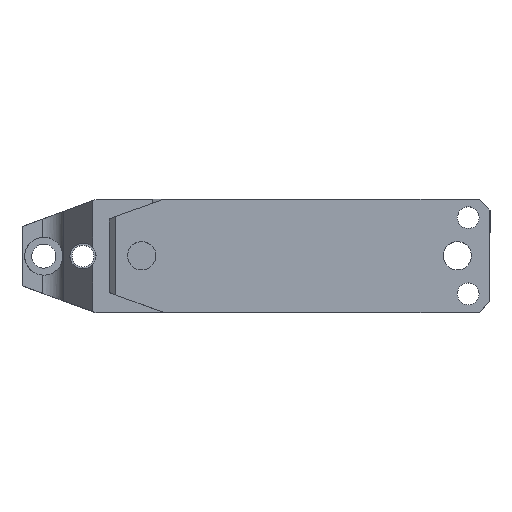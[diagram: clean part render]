
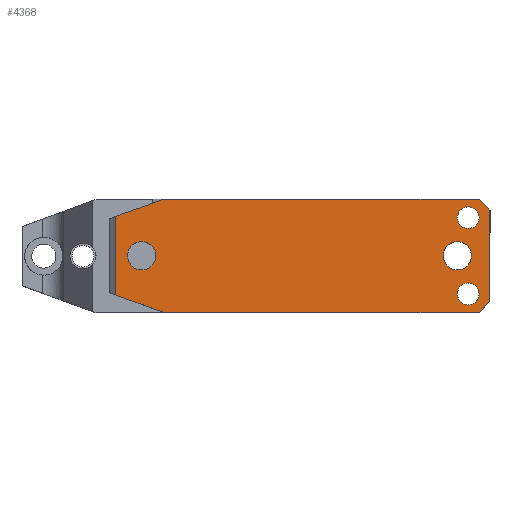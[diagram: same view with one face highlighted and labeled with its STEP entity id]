
A CAD part, top view. The second image highlights one B-rep face of the part: STEP entity #4368.
In plain terms, the highlighted planar face has unit normal (0, 0, 1).
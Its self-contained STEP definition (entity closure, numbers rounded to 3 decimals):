
#101 = CARTESIAN_POINT ( 'NONE',  ( 174., 17.5, 125. ) ) ;
#195 = DIRECTION ( 'NONE',  ( -0.94, 0.342, 0. ) ) ;
#202 = DIRECTION ( 'NONE',  ( 0.707, -0.707, 0. ) ) ;
#464 = CARTESIAN_POINT ( 'NONE',  ( 17.5, 0., 125. ) ) ;
#467 = DIRECTION ( 'NONE',  ( 0., 0., -1. ) ) ;
#472 = EDGE_LOOP ( 'NONE', ( #10960, #10133 ) ) ;
#577 = EDGE_CURVE ( 'NONE', #10013, #1191, #9922, .T. ) ;
#700 = DIRECTION ( 'NONE',  ( 0., -1., 0. ) ) ;
#799 = EDGE_CURVE ( 'NONE', #8819, #3365, #4569, .T. ) ;
#883 = EDGE_CURVE ( 'NONE', #7250, #2542, #1685, .T. ) ;
#1006 = DIRECTION ( 'NONE',  ( -1., 0., 0. ) ) ;
#1034 = VECTOR ( 'NONE', #195, 1000. ) ;
#1191 = VERTEX_POINT ( 'NONE', #2306 ) ;
#1275 = ORIENTED_EDGE ( 'NONE', *, *, #11125, .F. ) ;
#1277 = CARTESIAN_POINT ( 'NONE',  ( 24., 0., 125. ) ) ;
#1289 = CARTESIAN_POINT ( 'NONE',  ( 179., -17.5, 125. ) ) ;
#1604 = LINE ( 'NONE', #9481, #3660 ) ;
#1685 = LINE ( 'NONE', #9752, #10730 ) ;
#1764 = VERTEX_POINT ( 'NONE', #6543 ) ;
#1853 = DIRECTION ( 'NONE',  ( 0., 0., -1. ) ) ;
#1854 = DIRECTION ( 'NONE',  ( 0., 0., -1. ) ) ;
#1887 = AXIS2_PLACEMENT_3D ( 'NONE', #5756, #467, #6631 ) ;
#2042 = CARTESIAN_POINT ( 'NONE',  ( 169., 0., 125. ) ) ;
#2113 = DIRECTION ( 'NONE',  ( 1., 0., 0. ) ) ;
#2124 = LINE ( 'NONE', #5591, #11185 ) ;
#2169 = DIRECTION ( 'NONE',  ( -1., 0., 0. ) ) ;
#2240 = VECTOR ( 'NONE', #6183, 1000. ) ;
#2306 = CARTESIAN_POINT ( 'NONE',  ( 169., -17.5, 125. ) ) ;
#2411 = CARTESIAN_POINT ( 'NONE',  ( 179., -26., 125. ) ) ;
#2454 = CARTESIAN_POINT ( 'NONE',  ( 12., 17.993, 125. ) ) ;
#2542 = VERTEX_POINT ( 'NONE', #9824 ) ;
#2577 = LINE ( 'NONE', #5478, #4624 ) ;
#2587 = EDGE_CURVE ( 'NONE', #7684, #1764, #5422, .T. ) ;
#2606 = AXIS2_PLACEMENT_3D ( 'NONE', #8606, #3341, #9480 ) ;
#2699 = LINE ( 'NONE', #2411, #7085 ) ;
#2716 = AXIS2_PLACEMENT_3D ( 'NONE', #2042, #8194, #2914 ) ;
#2764 = EDGE_CURVE ( 'NONE', #4422, #6730, #10509, .T. ) ;
#2901 = EDGE_LOOP ( 'NONE', ( #11310, #10480, #7335, #8833, #1275, #7184, #6350, #6084 ) ) ;
#2914 = DIRECTION ( 'NONE',  ( -1., 0., 0. ) ) ;
#3117 = CARTESIAN_POINT ( 'NONE',  ( 179., -26., 125. ) ) ;
#3136 = EDGE_CURVE ( 'NONE', #6730, #4422, #9281, .T. ) ;
#3293 = DIRECTION ( 'NONE',  ( -0.707, -0.707, 0. ) ) ;
#3341 = DIRECTION ( 'NONE',  ( 0., 0., -1. ) ) ;
#3365 = VERTEX_POINT ( 'NONE', #7480 ) ;
#3376 = VECTOR ( 'NONE', #7039, 1000. ) ;
#3390 = EDGE_LOOP ( 'NONE', ( #7410, #8898 ) ) ;
#3660 = VECTOR ( 'NONE', #700, 1000. ) ;
#3942 = CARTESIAN_POINT ( 'NONE',  ( 184., 21., 125. ) ) ;
#4331 = ORIENTED_EDGE ( 'NONE', *, *, #9162, .T. ) ;
#4368 = ADVANCED_FACE ( 'NONE', ( #6221, #4448, #10598, #8293, #5948 ), #10588, .F. ) ;
#4422 = VERTEX_POINT ( 'NONE', #6261 ) ;
#4437 = AXIS2_PLACEMENT_3D ( 'NONE', #1277, #7437, #2169 ) ;
#4448 = FACE_BOUND ( 'NONE', #472, .T. ) ;
#4484 = CARTESIAN_POINT ( 'NONE',  ( 174., -17.5, 125. ) ) ;
#4502 = EDGE_CURVE ( 'NONE', #5293, #7023, #9514, .T. ) ;
#4569 = LINE ( 'NONE', #7064, #2240 ) ;
#4624 = VECTOR ( 'NONE', #202, 1000. ) ;
#4653 = VERTEX_POINT ( 'NONE', #3117 ) ;
#4726 = ORIENTED_EDGE ( 'NONE', *, *, #8794, .T. ) ;
#4953 = AXIS2_PLACEMENT_3D ( 'NONE', #10213, #4960, #11103 ) ;
#4960 = DIRECTION ( 'NONE',  ( 0., 0., -1. ) ) ;
#5050 = EDGE_LOOP ( 'NONE', ( #8583, #5390 ) ) ;
#5293 = VERTEX_POINT ( 'NONE', #6099 ) ;
#5338 = DIRECTION ( 'NONE',  ( -1., 0., 0. ) ) ;
#5390 = ORIENTED_EDGE ( 'NONE', *, *, #9620, .T. ) ;
#5422 = LINE ( 'NONE', #6366, #1034 ) ;
#5478 = CARTESIAN_POINT ( 'NONE',  ( 179., 26., 125. ) ) ;
#5591 = CARTESIAN_POINT ( 'NONE',  ( 9., -26., 125. ) ) ;
#5756 = CARTESIAN_POINT ( 'NONE',  ( 174., 17.5, 125. ) ) ;
#5948 = FACE_OUTER_BOUND ( 'NONE', #2901, .T. ) ;
#6084 = ORIENTED_EDGE ( 'NONE', *, *, #11281, .F. ) ;
#6099 = CARTESIAN_POINT ( 'NONE',  ( 162.5, 0., 125. ) ) ;
#6183 = DIRECTION ( 'NONE',  ( 0., -1., 0. ) ) ;
#6187 = CARTESIAN_POINT ( 'NONE',  ( 9., 26., 125. ) ) ;
#6221 = FACE_BOUND ( 'NONE', #3390, .T. ) ;
#6253 = LINE ( 'NONE', #10526, #3376 ) ;
#6261 = CARTESIAN_POINT ( 'NONE',  ( 179., 17.5, 125. ) ) ;
#6277 = DIRECTION ( 'NONE',  ( 0., 0., -1. ) ) ;
#6350 = ORIENTED_EDGE ( 'NONE', *, *, #6417, .F. ) ;
#6366 = CARTESIAN_POINT ( 'NONE',  ( 9., -16.901, 125. ) ) ;
#6417 = EDGE_CURVE ( 'NONE', #9045, #8819, #2577, .T. ) ;
#6543 = CARTESIAN_POINT ( 'NONE',  ( 12., -17.993, 125. ) ) ;
#6631 = DIRECTION ( 'NONE',  ( -1., 0., 0. ) ) ;
#6730 = VERTEX_POINT ( 'NONE', #7731 ) ;
#6759 = EDGE_CURVE ( 'NONE', #7250, #1764, #1604, .T. ) ;
#6963 = AXIS2_PLACEMENT_3D ( 'NONE', #101, #6277, #1006 ) ;
#7023 = VERTEX_POINT ( 'NONE', #10004 ) ;
#7039 = DIRECTION ( 'NONE',  ( 1., 0., 0. ) ) ;
#7064 = CARTESIAN_POINT ( 'NONE',  ( 184., 26., 125. ) ) ;
#7085 = VECTOR ( 'NONE', #3293, 1000. ) ;
#7105 = CARTESIAN_POINT ( 'NONE',  ( 24., 0., 125. ) ) ;
#7184 = ORIENTED_EDGE ( 'NONE', *, *, #799, .F. ) ;
#7250 = VERTEX_POINT ( 'NONE', #2454 ) ;
#7335 = ORIENTED_EDGE ( 'NONE', *, *, #2587, .F. ) ;
#7338 = CIRCLE ( 'NONE', #10731, 5. ) ;
#7410 = ORIENTED_EDGE ( 'NONE', *, *, #8505, .T. ) ;
#7437 = DIRECTION ( 'NONE',  ( 0., 0., -1. ) ) ;
#7480 = CARTESIAN_POINT ( 'NONE',  ( 184., -21., 125. ) ) ;
#7653 = AXIS2_PLACEMENT_3D ( 'NONE', #6187, #1854, #8007 ) ;
#7684 = VERTEX_POINT ( 'NONE', #10289 ) ;
#7731 = CARTESIAN_POINT ( 'NONE',  ( 169., 17.5, 125. ) ) ;
#7751 = AXIS2_PLACEMENT_3D ( 'NONE', #7105, #1853, #8006 ) ;
#8006 = DIRECTION ( 'NONE',  ( -1., 0., 0. ) ) ;
#8007 = DIRECTION ( 'NONE',  ( -1., 0., 0. ) ) ;
#8037 = EDGE_CURVE ( 'NONE', #7684, #4653, #2124, .T. ) ;
#8125 = VERTEX_POINT ( 'NONE', #464 ) ;
#8194 = DIRECTION ( 'NONE',  ( 0., 0., -1. ) ) ;
#8293 = FACE_BOUND ( 'NONE', #5050, .T. ) ;
#8502 = CIRCLE ( 'NONE', #2606, 6.5 ) ;
#8505 = EDGE_CURVE ( 'NONE', #1191, #10013, #7338, .T. ) ;
#8583 = ORIENTED_EDGE ( 'NONE', *, *, #4502, .T. ) ;
#8606 = CARTESIAN_POINT ( 'NONE',  ( 169., 0., 125. ) ) ;
#8794 = EDGE_CURVE ( 'NONE', #8870, #8125, #10740, .T. ) ;
#8819 = VERTEX_POINT ( 'NONE', #3942 ) ;
#8833 = ORIENTED_EDGE ( 'NONE', *, *, #8037, .T. ) ;
#8870 = VERTEX_POINT ( 'NONE', #10145 ) ;
#8898 = ORIENTED_EDGE ( 'NONE', *, *, #577, .T. ) ;
#9045 = VERTEX_POINT ( 'NONE', #11295 ) ;
#9162 = EDGE_CURVE ( 'NONE', #8125, #8870, #11397, .T. ) ;
#9281 = CIRCLE ( 'NONE', #6963, 5. ) ;
#9480 = DIRECTION ( 'NONE',  ( -1., 0., 0. ) ) ;
#9481 = CARTESIAN_POINT ( 'NONE',  ( 12., 26., 125. ) ) ;
#9514 = CIRCLE ( 'NONE', #2716, 6.5 ) ;
#9620 = EDGE_CURVE ( 'NONE', #7023, #5293, #8502, .T. ) ;
#9752 = CARTESIAN_POINT ( 'NONE',  ( 9., 16.901, 125. ) ) ;
#9781 = DIRECTION ( 'NONE',  ( 0.94, 0.342, 0. ) ) ;
#9824 = CARTESIAN_POINT ( 'NONE',  ( 34., 26., 125. ) ) ;
#9922 = CIRCLE ( 'NONE', #4953, 5. ) ;
#10004 = CARTESIAN_POINT ( 'NONE',  ( 175.5, 0., 125. ) ) ;
#10013 = VERTEX_POINT ( 'NONE', #1289 ) ;
#10133 = ORIENTED_EDGE ( 'NONE', *, *, #2764, .T. ) ;
#10145 = CARTESIAN_POINT ( 'NONE',  ( 30.5, 0., 125. ) ) ;
#10213 = CARTESIAN_POINT ( 'NONE',  ( 174., -17.5, 125. ) ) ;
#10289 = CARTESIAN_POINT ( 'NONE',  ( 34., -26., 125. ) ) ;
#10480 = ORIENTED_EDGE ( 'NONE', *, *, #6759, .T. ) ;
#10509 = CIRCLE ( 'NONE', #1887, 5. ) ;
#10526 = CARTESIAN_POINT ( 'NONE',  ( 9., 26., 125. ) ) ;
#10588 = PLANE ( 'NONE',  #7653 ) ;
#10598 = FACE_BOUND ( 'NONE', #11230, .T. ) ;
#10599 = DIRECTION ( 'NONE',  ( 0., 0., -1. ) ) ;
#10730 = VECTOR ( 'NONE', #9781, 1000. ) ;
#10731 = AXIS2_PLACEMENT_3D ( 'NONE', #4484, #10599, #5338 ) ;
#10740 = CIRCLE ( 'NONE', #4437, 6.5 ) ;
#10960 = ORIENTED_EDGE ( 'NONE', *, *, #3136, .T. ) ;
#11103 = DIRECTION ( 'NONE',  ( -1., 0., 0. ) ) ;
#11125 = EDGE_CURVE ( 'NONE', #3365, #4653, #2699, .T. ) ;
#11185 = VECTOR ( 'NONE', #2113, 1000. ) ;
#11230 = EDGE_LOOP ( 'NONE', ( #4331, #4726 ) ) ;
#11281 = EDGE_CURVE ( 'NONE', #2542, #9045, #6253, .T. ) ;
#11295 = CARTESIAN_POINT ( 'NONE',  ( 179., 26., 125. ) ) ;
#11310 = ORIENTED_EDGE ( 'NONE', *, *, #883, .F. ) ;
#11397 = CIRCLE ( 'NONE', #7751, 6.5 ) ;
